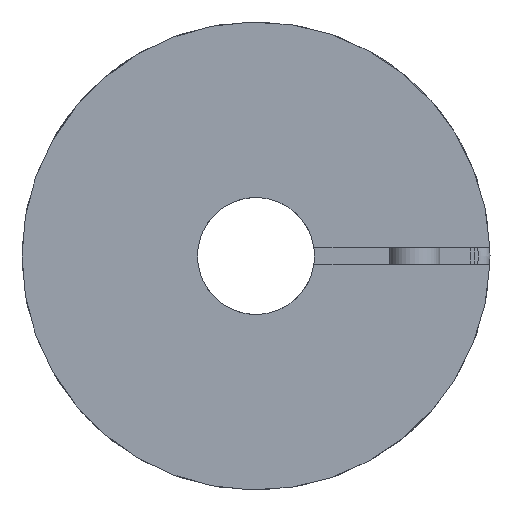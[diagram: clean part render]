
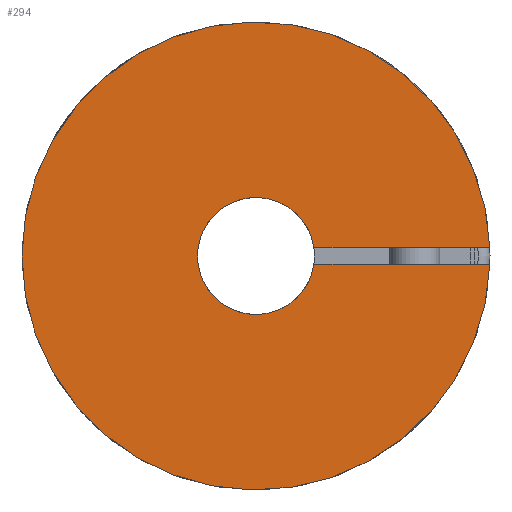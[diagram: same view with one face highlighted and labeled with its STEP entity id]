
A CAD part, left-side view. The second image highlights one B-rep face of the part: STEP entity #294.
In plain terms, the highlighted planar face has unit normal (-1, 0, 0).
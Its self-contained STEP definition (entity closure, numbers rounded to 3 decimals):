
#294 = ADVANCED_FACE( '', ( #685 ), #686, .F. );
#685 = FACE_OUTER_BOUND( '', #1154, .T. );
#686 = PLANE( '', #1155 );
#1154 = EDGE_LOOP( '', ( #1857, #1858, #1859, #1860 ) );
#1155 = AXIS2_PLACEMENT_3D( '', #1861, #1862, #1863 );
#1857 = ORIENTED_EDGE( '', *, *, #2477, .T. );
#1858 = ORIENTED_EDGE( '', *, *, #2353, .F. );
#1859 = ORIENTED_EDGE( '', *, *, #2453, .T. );
#1860 = ORIENTED_EDGE( '', *, *, #2407, .T. );
#1861 = CARTESIAN_POINT( '', ( -35., 0., 0. ) );
#1862 = DIRECTION( '', ( 1., 0., 0. ) );
#1863 = DIRECTION( '', ( 0., 0., 1. ) );
#2353 = EDGE_CURVE( '', #2747, #2748, #2749, .T. );
#2407 = EDGE_CURVE( '', #2832, #2830, #2833, .T. );
#2453 = EDGE_CURVE( '', #2747, #2832, #2898, .T. );
#2477 = EDGE_CURVE( '', #2830, #2748, #2929, .T. );
#2747 = VERTEX_POINT( '', #3443 );
#2748 = VERTEX_POINT( '', #3444 );
#2749 = CIRCLE( '', #3445, 7. );
#2830 = VERTEX_POINT( '', #3949 );
#2832 = VERTEX_POINT( '', #3952 );
#2833 = CIRCLE( '', #3953, 28. );
#2898 = LINE( '', #4818, #4819 );
#2929 = LINE( '', #4853, #4854 );
#3443 = CARTESIAN_POINT( '', ( -35., -6.928, 1. ) );
#3444 = CARTESIAN_POINT( '', ( -35., -6.928, -1. ) );
#3445 = AXIS2_PLACEMENT_3D( '', #5149, #5150, #5151 );
#3949 = CARTESIAN_POINT( '', ( -35., -27.982, -1. ) );
#3952 = CARTESIAN_POINT( '', ( -35., -27.982, 1. ) );
#3953 = AXIS2_PLACEMENT_3D( '', #5228, #5229, #5230 );
#4818 = CARTESIAN_POINT( '', ( -35., -9.95, 1. ) );
#4819 = VECTOR( '', #5283, 1000. );
#4853 = CARTESIAN_POINT( '', ( -35., -9.95, -1. ) );
#4854 = VECTOR( '', #5311, 1000. );
#5149 = CARTESIAN_POINT( '', ( -35., 0., 0. ) );
#5150 = DIRECTION( '', ( -1., 0., 0. ) );
#5151 = DIRECTION( '', ( 0., -1., 0. ) );
#5228 = CARTESIAN_POINT( '', ( -35., 0., 0. ) );
#5229 = DIRECTION( '', ( -1., 0., 0. ) );
#5230 = DIRECTION( '', ( 0., -1., 0. ) );
#5283 = DIRECTION( '', ( 0., -1., 0. ) );
#5311 = DIRECTION( '', ( 0., 1., 0. ) );
